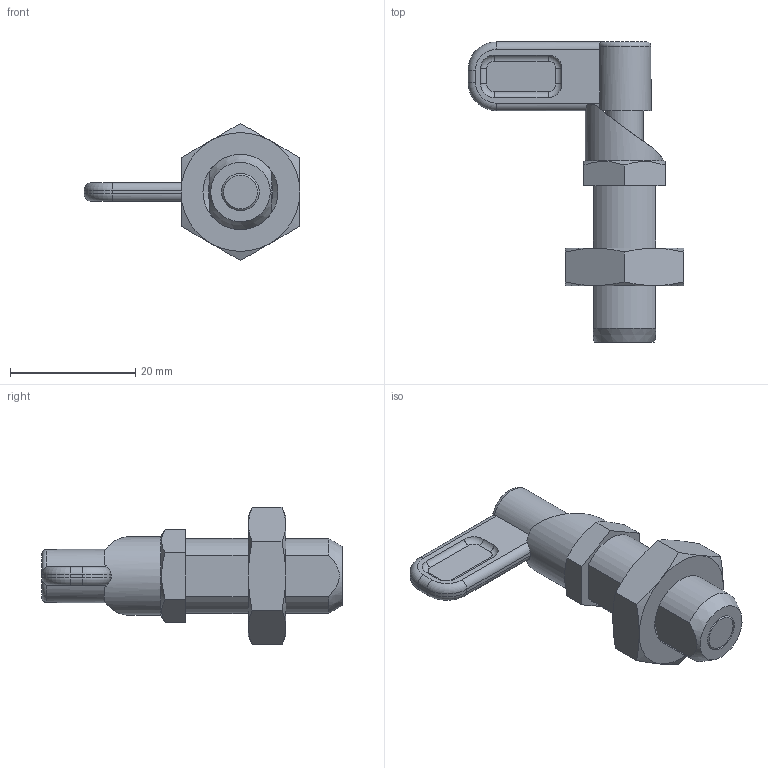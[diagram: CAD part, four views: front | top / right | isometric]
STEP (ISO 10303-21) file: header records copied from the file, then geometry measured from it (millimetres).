
FILE_DESCRIPTION( ( 'STEP AP203' ), '1' );
FILE_NAME( 'C:/Temp/Ganter_Step_05_03_2020/data/3_1/gn_612.8/gn612_8_ak/Indexing plunger GN 612.8-6-M12x1,5-AK (activated).stp', '2020-03-12T09:12:34', ( 'License CC BY-ND 4.0' ), ( 'CADENAS' ), ' ', 'PARTsolutions', ' ' );
FILE_SCHEMA( ( 'CONFIG_CONTROL_DESIGN' ) );
Length unit declared in the file: millimetre
Products named in the file (4): Indexing plunger GN 612.8-6-M12x1,5-AK (activated); _Indexing plunger GN 612.8-6-M12x1,5-AK (2)_2; _Indexing plunger GN 612.8-6-M12x1,5-AK (2)_1; _Indexing plunger GN 612.8-6-M12x1,5-AK (1)_3
Assembly tree (3 placements, depth 2):
  Indexing plunger GN 612.8-6-M12x1,5-AK (activated)
    _Indexing plunger GN 612.8-6-M12x1,5-AK (2)_2
    _Indexing plunger GN 612.8-6-M12x1,5-AK (2)_1
    _Indexing plunger GN 612.8-6-M12x1,5-AK (1)_3
Bounding box: 34.5 x 48 x 21.94 mm (x, y, z)
Volume: 6050 mm3; surface area: 4895.8 mm2
Topology: 3 solids, 3 shells, 97 faces, 222 edges, 139 vertices
Faces by surface type: cylinder 34, plane 33, cone 17, torus 13
Full cylindrical faces by diameter (mm): 6 x4, 7 x2, 9 x1, 10.376 x1, 12.5 x1
Entity records: 3159 total; most frequent: CARTESIAN_POINT 926, DIRECTION 444, ORIENTED_EDGE 412, EDGE_CURVE 206, AXIS2_PLACEMENT_3D 190, VERTEX_POINT 136, EDGE_LOOP 122, FACE_OUTER_BOUND 105
